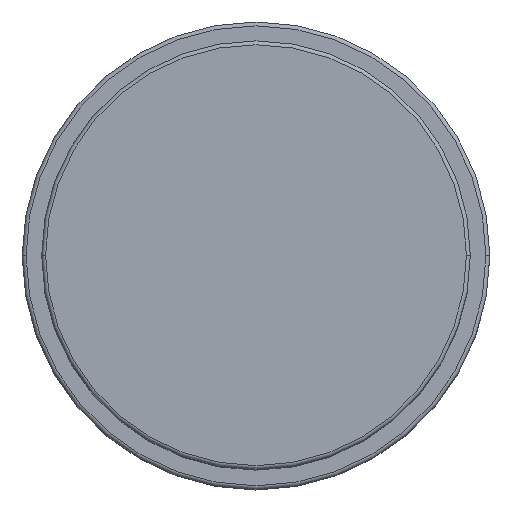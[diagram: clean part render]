
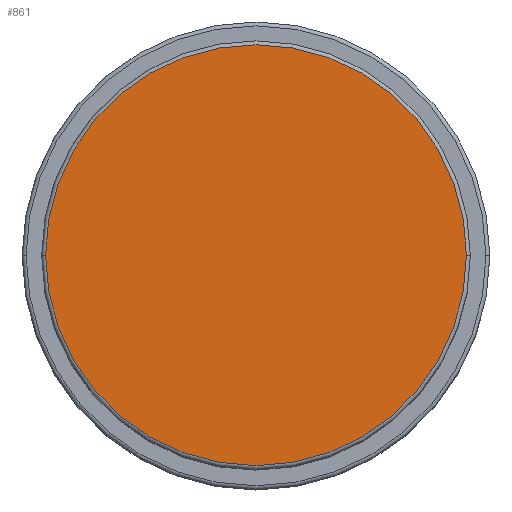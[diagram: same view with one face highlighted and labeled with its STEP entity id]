
A CAD part, top view. The second image highlights one B-rep face of the part: STEP entity #861.
In plain terms, the highlighted planar face has unit normal (0, 0, 1).
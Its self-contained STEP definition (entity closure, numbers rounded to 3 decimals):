
#663 = DIRECTION ( 'NONE',  ( 1., 0., 0. ) ) ;
#722 = DIRECTION ( 'NONE',  ( 0., 0., 1. ) ) ;
#861 = ADVANCED_FACE ( 'NONE', ( #4479 ), #2314, .T. ) ;
#877 = DIRECTION ( 'NONE',  ( 0., 0., 1. ) ) ;
#1603 = ORIENTED_EDGE ( 'NONE', *, *, #1952, .T. ) ;
#1952 = EDGE_CURVE ( 'NONE', #3052, #3048, #4385, .T. ) ;
#2095 = AXIS2_PLACEMENT_3D ( 'NONE', #4396, #4367, #663 ) ;
#2181 = ORIENTED_EDGE ( 'NONE', *, *, #3674, .T. ) ;
#2314 = PLANE ( 'NONE',  #3224 ) ;
#2773 = DIRECTION ( 'NONE',  ( 1., 0., 0. ) ) ;
#3046 = AXIS2_PLACEMENT_3D ( 'NONE', #4110, #722, #3327 ) ;
#3048 = VERTEX_POINT ( 'NONE', #3741 ) ;
#3052 = VERTEX_POINT ( 'NONE', #4015 ) ;
#3224 = AXIS2_PLACEMENT_3D ( 'NONE', #4637, #877, #2773 ) ;
#3327 = DIRECTION ( 'NONE',  ( 1., 0., 0. ) ) ;
#3571 = EDGE_LOOP ( 'NONE', ( #1603, #2181 ) ) ;
#3674 = EDGE_CURVE ( 'NONE', #3048, #3052, #3738, .T. ) ;
#3738 = CIRCLE ( 'NONE', #3046, 27. ) ;
#3741 = CARTESIAN_POINT ( 'NONE',  ( -27., 0., 71. ) ) ;
#4015 = CARTESIAN_POINT ( 'NONE',  ( 27., 0., 71. ) ) ;
#4110 = CARTESIAN_POINT ( 'NONE',  ( 0., 0., 71. ) ) ;
#4367 = DIRECTION ( 'NONE',  ( 0., 0., 1. ) ) ;
#4385 = CIRCLE ( 'NONE', #2095, 27. ) ;
#4396 = CARTESIAN_POINT ( 'NONE',  ( 0., 0., 71. ) ) ;
#4479 = FACE_OUTER_BOUND ( 'NONE', #3571, .T. ) ;
#4637 = CARTESIAN_POINT ( 'NONE',  ( 0., 0., 71. ) ) ;
